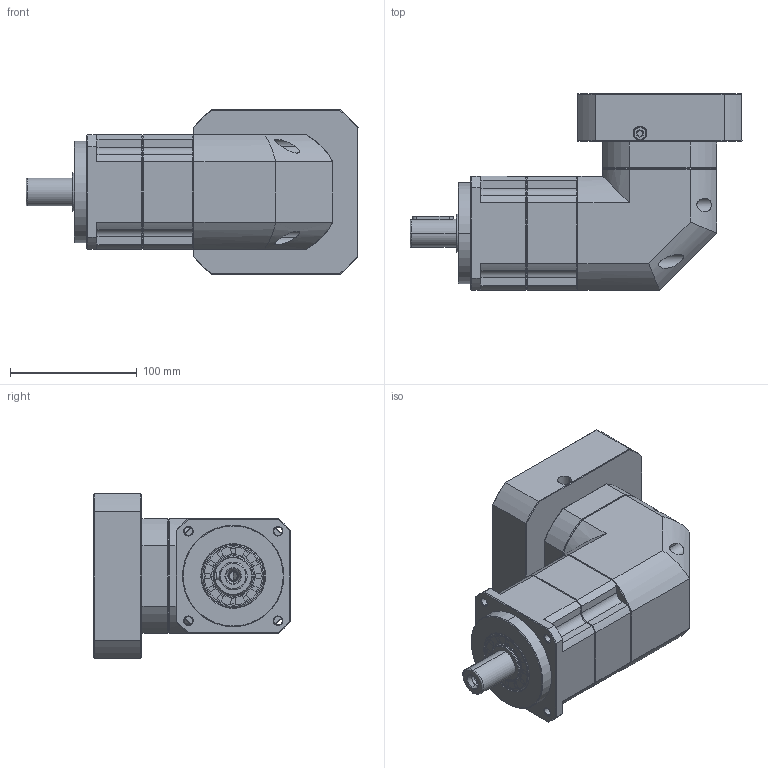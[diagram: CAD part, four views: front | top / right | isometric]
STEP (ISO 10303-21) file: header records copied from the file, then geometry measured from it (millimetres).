
FILE_DESCRIPTION (( 'STEP AP214' ), '1' );
FILE_NAME ('ZPBR090-D22-L2-P1-22-110-130-M8.step', '2024-06-07T18:36:33', ( 'Windows 蚚誧' ), ( 'Organization' ), 'SwSTEP 2.0', 'SolidWorks 2016', '' );
FILE_SCHEMA (( 'AUTOMOTIVE_DESIGN' ));
Length unit declared in the file: millimetre
Products named in the file (1): ZPBR090-D22-L2-P1-22-110-130-M8
Bounding box: 262 x 155 x 130 mm (x, y, z)
Surface area: 166136.5 mm2 (no closed solid volume)
Topology: 0 solids, 33 shells, 1892 faces, 4995 edges, 3188 vertices
Faces by surface type: plane 1009, bspline 373, cone 264, cylinder 229, torus 17
Full cylindrical faces by diameter (mm): 6.72 x1
Entity records: 93591 total; most frequent: CARTESIAN_POINT 45958, ORIENTED_EDGE 9941, DIRECTION 7792, EDGE_CURVE 4990, LINE 3308, VECTOR 3308, VERTEX_POINT 3186, AXIS2_PLACEMENT_3D 2242
